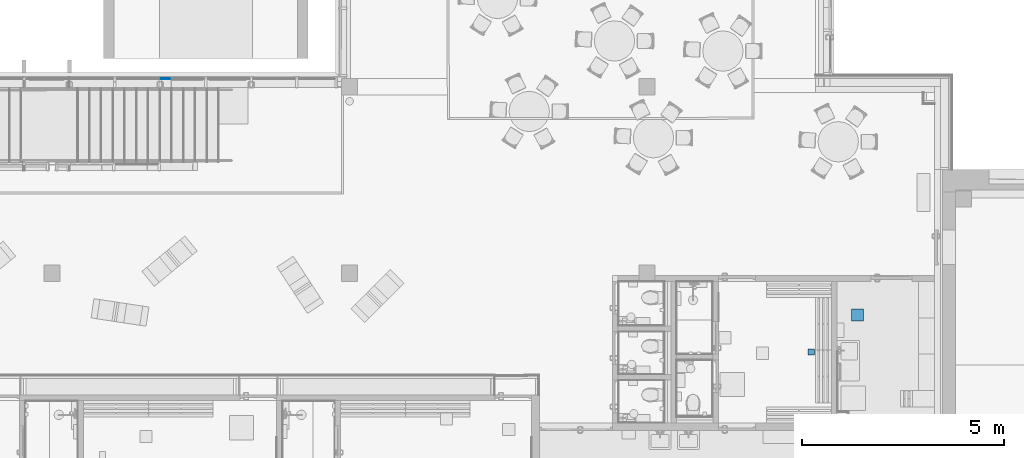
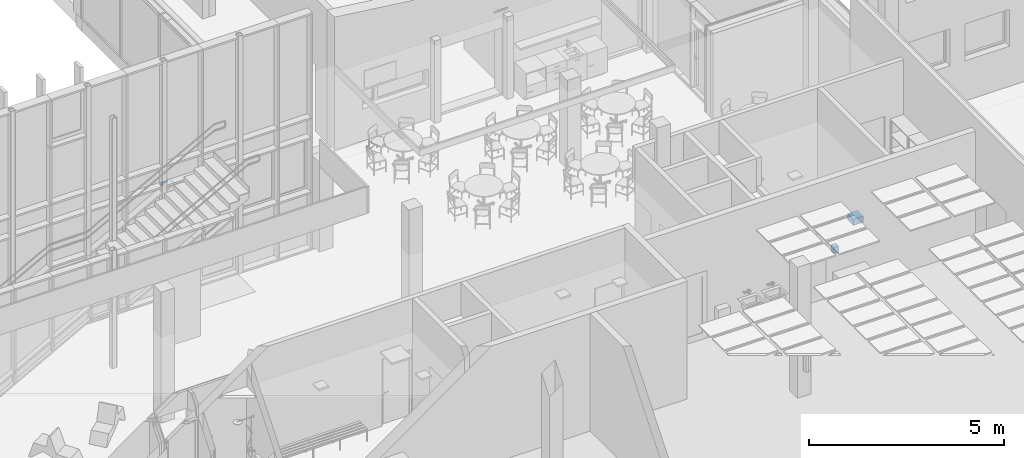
# One storey, part 84 of 301: 2 slabs, 1 plate, 1 element without a shape of its own.
"""IFC2X3 building model written with IfcOpenShell, lengths in millimetres."""

from ifc_helpers import new_model, entity, si_unit, converted_unit, derived_unit, money_unit, direction, frame, origin_with_axes, place, context, subcontext, project, spatial, faceted_brep, material, type_object, element, aggregate, save


model = new_model("IFC2X3")

# Units and contexts
model_context = context("Model", 3, precision=0.01, world=origin_with_axes(), true_north=direction((0.0, 1.0)))
body_context = subcontext(model_context, "Body", "Model", "MODEL_VIEW")
ifc_project = project(units=[si_unit("LENGTHUNIT", "METRE", prefix="MILLI"), si_unit("AREAUNIT", "SQUARE_METRE"), si_unit("VOLUMEUNIT", "CUBIC_METRE"), converted_unit("PLANEANGLEUNIT", "DEGREE", entity("IfcPlaneAngleMeasure", 0.0174532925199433), si_unit("PLANEANGLEUNIT", "RADIAN"), dimensions=[0, 0, 0, 0, 0, 0, 0]), money_unit("EUR"), converted_unit("TIMEUNIT", "Year", entity("IfcTimeMeasure", 31557600.0), si_unit("TIMEUNIT", "SECOND"), dimensions=[0, 0, 1, 0, 0, 0, 0]), si_unit("MASSUNIT", "GRAM", prefix="KILO"), si_unit("THERMODYNAMICTEMPERATUREUNIT", "DEGREE_CELSIUS"), si_unit("LUMINOUSINTENSITYUNIT", "LUMEN"), si_unit("ENERGYUNIT", "JOULE", prefix="MEGA"), derived_unit("THERMALCONDUCTANCEUNIT", [(si_unit("POWERUNIT", "WATT"), 1), (si_unit("LENGTHUNIT", "METRE"), -1), (si_unit("THERMODYNAMICTEMPERATUREUNIT", "KELVIN"), -1)]), derived_unit("SPECIFICHEATCAPACITYUNIT", [(si_unit("ENERGYUNIT", "JOULE"), 1), (si_unit("MASSUNIT", "GRAM", prefix="KILO"), -1), (si_unit("THERMODYNAMICTEMPERATUREUNIT", "KELVIN"), -1)]), derived_unit("MASSDENSITYUNIT", [(si_unit("MASSUNIT", "GRAM", prefix="KILO"), 1), (si_unit("VOLUMEUNIT", "CUBIC_METRE"), -1)])], contexts=[model_context])

# Site, building, storey
site_placement = place(None, frame((0.0, 0.0, 8650.0), z_axis=(0.0, 0.0, 1.0), x_axis=(1.0, 0.0, 0.0)))
site = spatial("IfcSite", under=ifc_project, at=site_placement, Name="43301:001:0844", CompositionType="ELEMENT")
building_placement = place(site_placement, origin_with_axes())
building = spatial("IfcBuilding", under=site, at=building_placement, Name="Kuressaare Ametikooli tuulikute mehaanikute õppekorpus", CompositionType="ELEMENT")
storey_placement = place(building_placement, origin_with_axes())
storey = spatial("IfcBuildingStorey", under=building, at=storey_placement, Name="1.korrus", CompositionType="ELEMENT", Elevation=0.0)

# Curtain wall, plate
curtain_wall_type = type_object("IfcCurtainWallType", Name="Curtain Wall Type", PredefinedType="NOTDEFINED")
curtain_wall_placement = place(storey_placement, frame((116704.6026822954, 28579.57374875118, 35.00000000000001), z_axis=(0.0, 0.0, 1.0), x_axis=(1.0, 0.0, 0.0)))
curtain_wall = element("IfcCurtainWall", 1, at=curtain_wall_placement, inside=storey, type_object=curtain_wall_type, Name="KF-1.1")
ifc_material_1 = material(Name="Klaas")
plate_type = type_object("IfcPlateType", Name="Main Panel 239 x 130 x 20", PredefinedType="NOTDEFINED")
plate_placement = place(curtain_wall_placement, frame((-2724.775757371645, 0.0, 3422.312535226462), z_axis=(0.0, 0.0, 1.0), x_axis=(-1.0, 0.0, 0.0)))
plate = element("IfcPlate", 2, at=plate_placement, type_object=plate_type, material=ifc_material_1, context=body_context, shape_type="Brep", body=[
    faceted_brep([(-155.7816616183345, 9.99999999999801, 42.68747478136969), (-155.7816616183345, -10.00000000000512, 42.68747478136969), (82.72424238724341, -10.00000000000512, 42.68747478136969), (82.72424238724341, 9.99999999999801, 42.68747478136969), (82.72424238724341, 9.99999999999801, -86.96589174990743), (82.72424238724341, -10.00000000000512, -86.96589174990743)], [[[0, 1, 2, 3]], [[4, 5, 1, 0]], [[1, 5, 2]], [[3, 2, 5, 4]], [[0, 3, 4]]]),
])
aggregate(curtain_wall, [plate])

# Slabs
ifc_material_2 = material(Name="GENEERILINE - KONSTRUKTRIOON")
slab_type = type_object("IfcSlabType", Name="GENEERILINE - KONSTRUKTRIOON 200", PredefinedType="NOTDEFINED")
slab_1_placement = place(storey_placement, frame((130964.9464826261, 22593.99713314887, 0.0), z_axis=(0.0, 0.0, 1.0), x_axis=(1.0, 0.0, 0.0)))
element("IfcSlab", 3, at=slab_1_placement, inside=storey, type_object=slab_type, material=ifc_material_2, Name="Põrandatrapp", PredefinedType="NOTDEFINED", context=body_context, shape_type="Brep", body=[
    faceted_brep([(0.0, 0.0, 0.0), (0.0, 0.0, -200.0), (300.0000000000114, 0.0, -200.0), (300.0000000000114, 0.0, 0.0), (0.0, 300.0000000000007, 0.0), (0.0, 300.0000000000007, -200.0), (300.0000000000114, 300.0000000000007, -200.0), (300.0000000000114, 300.0000000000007, 0.0)], [[[0, 1, 2, 3]], [[4, 5, 1, 0]], [[2, 1, 5, 6]], [[3, 2, 6, 7]], [[4, 0, 3, 7]], [[7, 6, 5, 4]]]),
])
slab_2_placement = place(storey_placement, frame((130049.9464826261, 21899.26940948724, 0.0), z_axis=(0.0, 0.0, 1.0), x_axis=(1.0, 0.0, 0.0)))
element("IfcSlab", 4, at=slab_2_placement, inside=storey, type_object=slab_type, material=ifc_material_2, Name="Põrandatrapp", PredefinedType="NOTDEFINED", context=body_context, shape_type="Brep", body=[
    faceted_brep([(0.0, 0.0, 0.0), (0.0, 0.0, -200.0), (-149.9999999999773, 0.0, -200.0), (-149.9999999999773, 0.0, 0.0), (0.0, -150.0000535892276, 0.0), (0.0, -150.0000535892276, -200.0), (-149.9999999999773, -150.0000535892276, -200.0), (-149.9999999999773, -150.0000535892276, 0.0)], [[[0, 1, 2, 3]], [[4, 5, 1, 0]], [[2, 1, 5, 6]], [[3, 2, 6, 7]], [[4, 0, 3, 7]], [[7, 6, 5, 4]]]),
])

save(model, "model.ifc")
